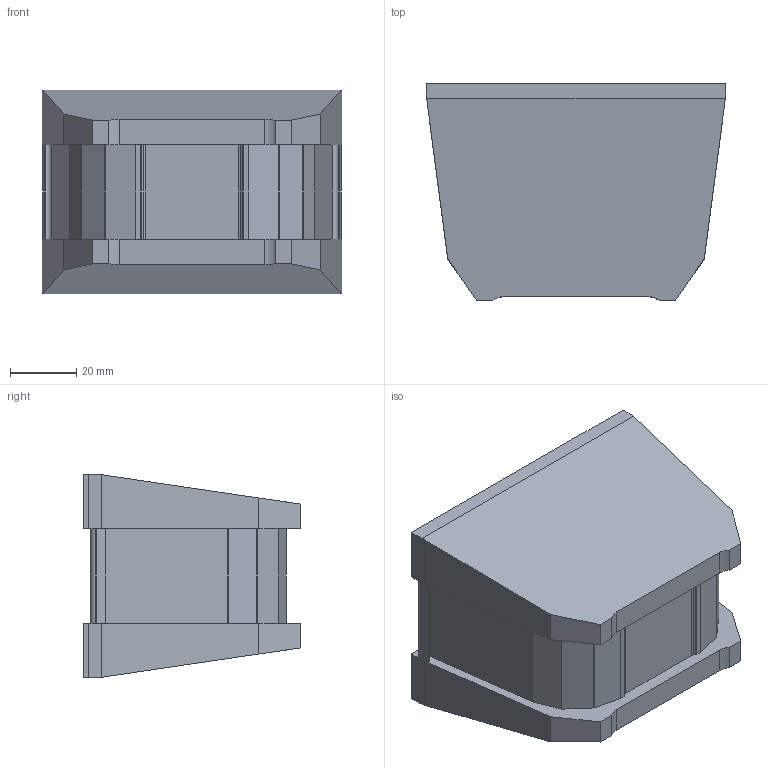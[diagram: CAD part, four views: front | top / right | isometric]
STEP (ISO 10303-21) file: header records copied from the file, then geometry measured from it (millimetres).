
FILE_DESCRIPTION (( 'STEP AP214' ), '1' );
FILE_NAME ('Besteckschale NL 60 L61,5.step', '2010-09-21T13:13:29', ( 'grass' ), ( '' ), 'SwSTEP 2.0', 'SolidWorks 2010', '' );
FILE_SCHEMA (( 'AUTOMOTIVE_DESIGN' ));
Length unit declared in the file: millimetre
Products named in the file (1): Besteckschale NL 60 L61,5
Bounding box: 90.5 x 65.5 x 61.5 mm (x, y, z)
Volume: 50564 mm3; surface area: 40028.1 mm2
Topology: 1 solids, 1 shells, 112 faces, 324 edges, 216 vertices
Faces by surface type: plane 80, cylinder 32
Entity records: 3702 total; most frequent: CARTESIAN_POINT 677, ORIENTED_EDGE 648, DIRECTION 602, EDGE_CURVE 324, LINE 256, VECTOR 256, VERTEX_POINT 216, AXIS2_PLACEMENT_3D 173
